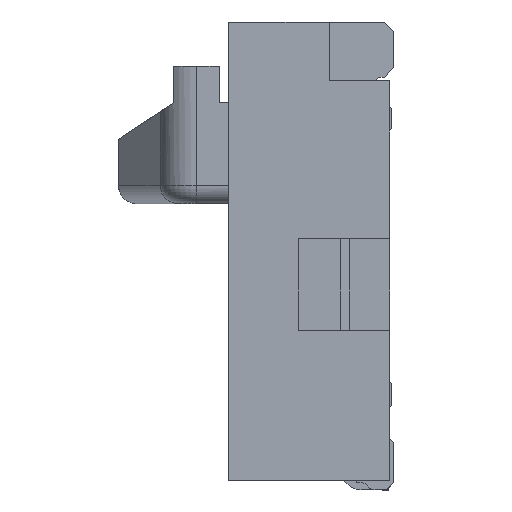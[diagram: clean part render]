
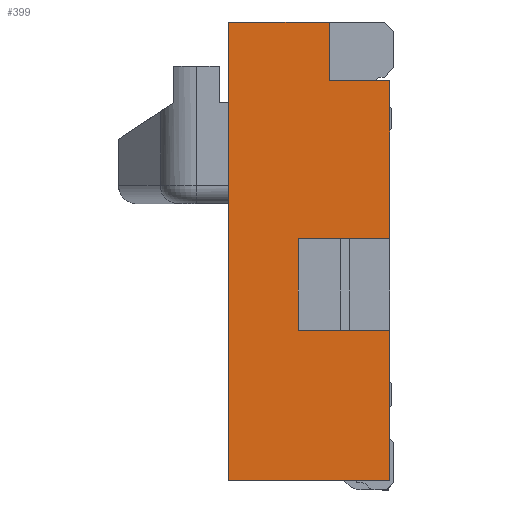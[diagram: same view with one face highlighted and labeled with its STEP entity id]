
A CAD part, left-side view. The second image highlights one B-rep face of the part: STEP entity #399.
In plain terms, the highlighted planar face has unit normal (-1, 0, 0).
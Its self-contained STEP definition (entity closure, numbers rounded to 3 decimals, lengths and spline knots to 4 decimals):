
#300 = ORIENTED_EDGE ( 'NONE', *, *, #1642, .F. ) ;
#318 = VERTEX_POINT ( 'NONE', #60914 ) ;
#394 = EDGE_CURVE ( 'NONE', #599, #37020, #61029, .T. ) ;
#399 = ADVANCED_FACE ( 'NONE', ( #61033 ), #61106, .F. ) ;
#405 = ORIENTED_EDGE ( 'NONE', *, *, #394, .F. ) ;
#486 = VERTEX_POINT ( 'NONE', #61246 ) ;
#593 = VERTEX_POINT ( 'NONE', #61413 ) ;
#594 = EDGE_CURVE ( 'NONE', #318, #21552, #61401, .T. ) ;
#599 = VERTEX_POINT ( 'NONE', #61465 ) ;
#1052 = EDGE_CURVE ( 'NONE', #36803, #486, #62365, .T. ) ;
#1055 = ORIENTED_EDGE ( 'NONE', *, *, #36911, .T. ) ;
#1642 = EDGE_CURVE ( 'NONE', #486, #593, #62486, .T. ) ;
#1764 = ORIENTED_EDGE ( 'NONE', *, *, #594, .F. ) ;
#2232 = EDGE_CURVE ( 'NONE', #593, #318, #62582, .T. ) ;
#2265 = ORIENTED_EDGE ( 'NONE', *, *, #21439, .T. ) ;
#5722 = ORIENTED_EDGE ( 'NONE', *, *, #36795, .F. ) ;
#6537 = ORIENTED_EDGE ( 'NONE', *, *, #7415, .T. ) ;
#7415 = EDGE_CURVE ( 'NONE', #599, #21558, #61624, .T. ) ;
#7518 = ORIENTED_EDGE ( 'NONE', *, *, #2232, .F. ) ;
#9431 = CARTESIAN_POINT ( 'NONE',  ( -5.4, 0.52, -1.18 ) ) ;
#9513 = DIRECTION ( 'NONE',  ( 0., 0., -1. ) ) ;
#9515 = VECTOR ( 'NONE', #9513, 1000. ) ;
#9517 = CARTESIAN_POINT ( 'NONE',  ( -5.4, 0.52, -1.18 ) ) ;
#9521 = LINE ( 'NONE', #9517, #9515 ) ;
#9721 = DIRECTION ( 'NONE',  ( 0., 0., 1. ) ) ;
#9722 = VECTOR ( 'NONE', #9721, 1000. ) ;
#9723 = CARTESIAN_POINT ( 'NONE',  ( -5.4, 0.35, 0. ) ) ;
#9724 = CARTESIAN_POINT ( 'NONE',  ( -5.4, 0.52, -1.68 ) ) ;
#9726 = LINE ( 'NONE', #9723, #9722 ) ;
#21346 = EDGE_CURVE ( 'NONE', #21351, #21467, #9521, .T. ) ;
#21351 = VERTEX_POINT ( 'NONE', #9431 ) ;
#21439 = EDGE_CURVE ( 'NONE', #21558, #21552, #9726, .T. ) ;
#21467 = VERTEX_POINT ( 'NONE', #9724 ) ;
#21552 = VERTEX_POINT ( 'NONE', #70678 ) ;
#21558 = VERTEX_POINT ( 'NONE', #70670 ) ;
#36795 = EDGE_CURVE ( 'NONE', #21467, #36803, #87837, .T. ) ;
#36803 = VERTEX_POINT ( 'NONE', #87845 ) ;
#36911 = EDGE_CURVE ( 'NONE', #21351, #37020, #88067, .T. ) ;
#37020 = VERTEX_POINT ( 'NONE', #88192 ) ;
#60914 = CARTESIAN_POINT ( 'NONE',  ( -5.4, 0.9, 0. ) ) ;
#61027 = DIRECTION ( 'NONE',  ( 0., 0., -1. ) ) ;
#61028 = VECTOR ( 'NONE', #61027, 1000. ) ;
#61029 = LINE ( 'NONE', #61057, #61028 ) ;
#61033 = FACE_OUTER_BOUND ( 'NONE', #116673, .T. ) ;
#61057 = CARTESIAN_POINT ( 'NONE',  ( -5.4, 0.02, -2.5 ) ) ;
#61097 = DIRECTION ( 'NONE',  ( 0., 0., 1. ) ) ;
#61104 = CARTESIAN_POINT ( 'NONE',  ( -5.4, 0.9, -2.4 ) ) ;
#61106 = PLANE ( 'NONE',  #61112 ) ;
#61109 = DIRECTION ( 'NONE',  ( 1., 0., 0. ) ) ;
#61112 = AXIS2_PLACEMENT_3D ( 'NONE', #61104, #61109, #61097 ) ;
#61246 = CARTESIAN_POINT ( 'NONE',  ( -5.4, 0.02, -2.5 ) ) ;
#61401 = LINE ( 'NONE', #61427, #61467 ) ;
#61413 = CARTESIAN_POINT ( 'NONE',  ( -5.4, 0.9, -2.5 ) ) ;
#61427 = CARTESIAN_POINT ( 'NONE',  ( -5.4, 0.9, 0. ) ) ;
#61465 = CARTESIAN_POINT ( 'NONE',  ( -5.4, 0.02, -0.32 ) ) ;
#61466 = DIRECTION ( 'NONE',  ( 0., -1., 0. ) ) ;
#61467 = VECTOR ( 'NONE', #61466, 1000. ) ;
#61624 = LINE ( 'NONE', #61661, #61979 ) ;
#61661 = CARTESIAN_POINT ( 'NONE',  ( -5.4, 0.02, -0.32 ) ) ;
#61963 = DIRECTION ( 'NONE',  ( 0., 1., 0. ) ) ;
#61979 = VECTOR ( 'NONE', #61963, 1000. ) ;
#62363 = DIRECTION ( 'NONE',  ( 0., 0., -1. ) ) ;
#62364 = VECTOR ( 'NONE', #62363, 1000. ) ;
#62365 = LINE ( 'NONE', #62379, #62364 ) ;
#62379 = CARTESIAN_POINT ( 'NONE',  ( -5.4, 0.02, -2.5 ) ) ;
#62483 = DIRECTION ( 'NONE',  ( 0., 1., 0. ) ) ;
#62484 = VECTOR ( 'NONE', #62483, 1000. ) ;
#62485 = CARTESIAN_POINT ( 'NONE',  ( -5.4, 0.02, -2.5 ) ) ;
#62486 = LINE ( 'NONE', #62485, #62484 ) ;
#62504 = CARTESIAN_POINT ( 'NONE',  ( -5.4, 0.9, 0. ) ) ;
#62533 = DIRECTION ( 'NONE',  ( 0., 0., 1. ) ) ;
#62581 = VECTOR ( 'NONE', #62533, 1000. ) ;
#62582 = LINE ( 'NONE', #62504, #62581 ) ;
#70670 = CARTESIAN_POINT ( 'NONE',  ( -5.4, 0.35, -0.32 ) ) ;
#70678 = CARTESIAN_POINT ( 'NONE',  ( -5.4, 0.35, 0. ) ) ;
#82036 = ORIENTED_EDGE ( 'NONE', *, *, #21346, .F. ) ;
#84300 = ORIENTED_EDGE ( 'NONE', *, *, #1052, .F. ) ;
#87824 = DIRECTION ( 'NONE',  ( 0., -1., 0. ) ) ;
#87826 = VECTOR ( 'NONE', #87824, 1000. ) ;
#87827 = CARTESIAN_POINT ( 'NONE',  ( -5.4, 0.52, -1.68 ) ) ;
#87837 = LINE ( 'NONE', #87827, #87826 ) ;
#87845 = CARTESIAN_POINT ( 'NONE',  ( -5.4, 0.02, -1.68 ) ) ;
#88064 = DIRECTION ( 'NONE',  ( 0., -1., 0. ) ) ;
#88065 = VECTOR ( 'NONE', #88064, 1000. ) ;
#88066 = CARTESIAN_POINT ( 'NONE',  ( -5.4, 0.52, -1.18 ) ) ;
#88067 = LINE ( 'NONE', #88066, #88065 ) ;
#88192 = CARTESIAN_POINT ( 'NONE',  ( -5.4, 0.02, -1.18 ) ) ;
#116673 = EDGE_LOOP ( 'NONE', ( #1055, #405, #6537, #2265, #1764, #7518, #300, #84300, #5722, #82036 ) ) ;
